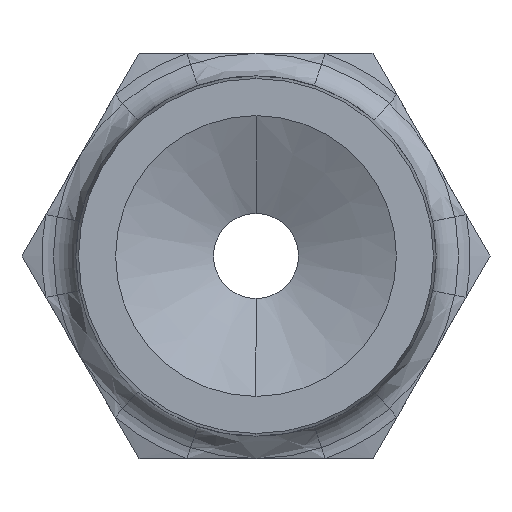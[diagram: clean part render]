
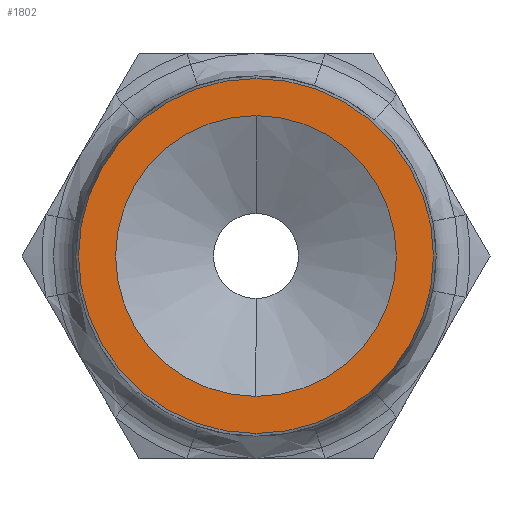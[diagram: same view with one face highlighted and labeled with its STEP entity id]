
A CAD part, left-side view. The second image highlights one B-rep face of the part: STEP entity #1802.
In plain terms, the highlighted planar face has unit normal (-1, 0, 0).
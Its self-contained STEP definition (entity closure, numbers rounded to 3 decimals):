
#171 = DIRECTION ( 'NONE',  ( -1., 0., 0. ) ) ;
#176 = CARTESIAN_POINT ( 'NONE',  ( -23.5, 0., 0. ) ) ;
#306 = AXIS2_PLACEMENT_3D ( 'NONE', #176, #171, #544 ) ;
#307 = CIRCLE ( 'NONE', #306, 4.95 ) ;
#309 = DIRECTION ( 'NONE',  ( 0., 0., 1. ) ) ;
#310 = DIRECTION ( 'NONE',  ( -1., 0., 0. ) ) ;
#311 = CARTESIAN_POINT ( 'NONE',  ( -23.5, 0., 0. ) ) ;
#312 = AXIS2_PLACEMENT_3D ( 'NONE', #311, #310, #309 ) ;
#313 = DIRECTION ( 'NONE',  ( 0., 0., 1. ) ) ;
#314 = DIRECTION ( 'NONE',  ( -1., 0., 0. ) ) ;
#315 = AXIS2_PLACEMENT_3D ( 'NONE', #317, #314, #313 ) ;
#316 = CIRCLE ( 'NONE', #312, 6.259 ) ;
#317 = CARTESIAN_POINT ( 'NONE',  ( -23.5, 0., 0. ) ) ;
#318 = PLANE ( 'NONE',  #315 ) ;
#319 = FACE_BOUND ( 'NONE', #1807, .T. ) ;
#320 = FACE_OUTER_BOUND ( 'NONE', #1803, .T. ) ;
#544 = DIRECTION ( 'NONE',  ( 0., 0., 1. ) ) ;
#1408 = VERTEX_POINT ( 'NONE', #2368 ) ;
#1410 = EDGE_CURVE ( 'NONE', #1408, #1411, #2367, .T. ) ;
#1411 = VERTEX_POINT ( 'NONE', #2362 ) ;
#1421 = EDGE_CURVE ( 'NONE', #1422, #1423, #2206, .T. ) ;
#1422 = VERTEX_POINT ( 'NONE', #2201 ) ;
#1423 = VERTEX_POINT ( 'NONE', #2200 ) ;
#1802 = ADVANCED_FACE ( 'NONE', ( #320, #319 ), #318, .T. ) ;
#1803 = EDGE_LOOP ( 'NONE', ( #1804, #1806 ) ) ;
#1804 = ORIENTED_EDGE ( 'NONE', *, *, #1805, .T. ) ;
#1805 = EDGE_CURVE ( 'NONE', #1423, #1422, #316, .T. ) ;
#1806 = ORIENTED_EDGE ( 'NONE', *, *, #1421, .T. ) ;
#1807 = EDGE_LOOP ( 'NONE', ( #1808, #1810 ) ) ;
#1808 = ORIENTED_EDGE ( 'NONE', *, *, #1809, .F. ) ;
#1809 = EDGE_CURVE ( 'NONE', #1411, #1408, #307, .T. ) ;
#1810 = ORIENTED_EDGE ( 'NONE', *, *, #1410, .F. ) ;
#2200 = CARTESIAN_POINT ( 'NONE',  ( -23.5, 0., 6.259 ) ) ;
#2201 = CARTESIAN_POINT ( 'NONE',  ( -23.5, 0., -6.259 ) ) ;
#2202 = DIRECTION ( 'NONE',  ( 0., 0., 1. ) ) ;
#2203 = DIRECTION ( 'NONE',  ( -1., 0., 0. ) ) ;
#2204 = CARTESIAN_POINT ( 'NONE',  ( -23.5, 0., 0. ) ) ;
#2205 = AXIS2_PLACEMENT_3D ( 'NONE', #2204, #2203, #2202 ) ;
#2206 = CIRCLE ( 'NONE', #2205, 6.259 ) ;
#2362 = CARTESIAN_POINT ( 'NONE',  ( -23.5, 0., 4.95 ) ) ;
#2363 = DIRECTION ( 'NONE',  ( 0., 0., 1. ) ) ;
#2364 = DIRECTION ( 'NONE',  ( -1., 0., 0. ) ) ;
#2365 = CARTESIAN_POINT ( 'NONE',  ( -23.5, 0., 0. ) ) ;
#2366 = AXIS2_PLACEMENT_3D ( 'NONE', #2365, #2364, #2363 ) ;
#2367 = CIRCLE ( 'NONE', #2366, 4.95 ) ;
#2368 = CARTESIAN_POINT ( 'NONE',  ( -23.5, 0., -4.95 ) ) ;
